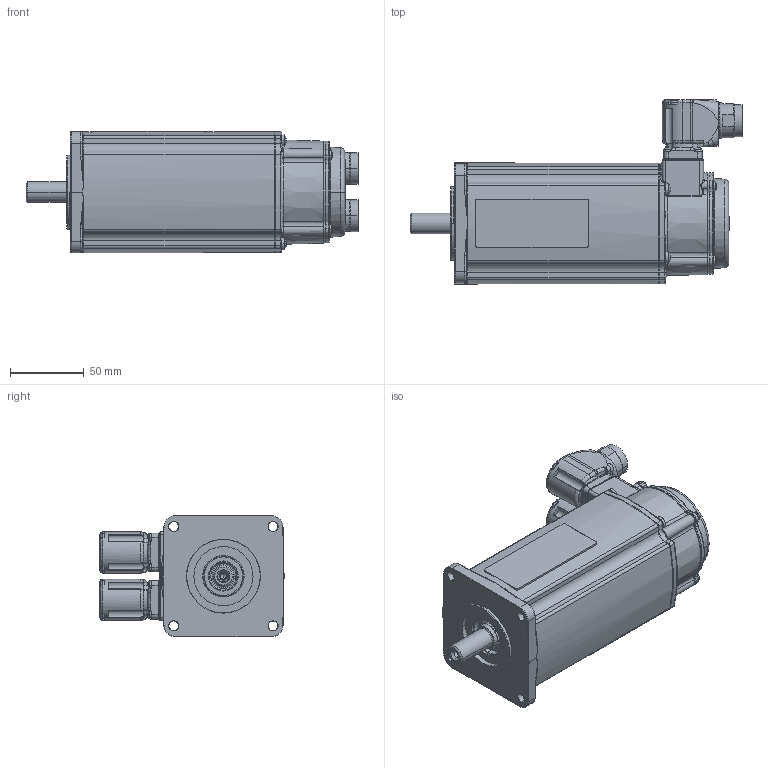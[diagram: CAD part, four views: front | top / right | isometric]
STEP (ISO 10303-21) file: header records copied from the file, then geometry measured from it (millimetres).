
FILE_DESCRIPTION((''),'2;1');
FILE_NAME('MSK040B-XXXX-NN-X1-UG1-NNNN_ASM','2008-11-24T',('wolfsaue'),('Rexroth_Indramat_GmbH'),'PRO/ENGINEER BY PARAMETRIC TECHNOLOGY CORPORATION, 2005110','PRO/ENGINEER BY PARAMETRIC TECHNOLOGY CORPORATION, 2005110','');
FILE_SCHEMA(('CONFIG_CONTROL_DESIGN'));
Length unit declared in the file: millimetre
Products named in the file (13): SKELETT-MSK040B; DB159772-GEHAEUSE-B1; DB160263-WELLE; DB162652-LAGERSCHILD; DB_35491-SCHRAUBE; DB163487-STECKER; DB_35256-SCHRAUBE; DB164715-STECKER; DB162217-DECKEL; DB_35255-SCHRAUBE; LAGERSCHILD-BG_ASM; DB_34669-DICHTRING; MSK040B-XXXX-NN-X1-UG1-NNNN_ASM
Assembly tree (25 placements, depth 3):
  MSK040B-XXXX-NN-X1-UG1-NNNN_ASM
    SKELETT-MSK040B
    DB159772-GEHAEUSE-B1
    DB160263-WELLE
    LAGERSCHILD-BG_ASM
      DB162652-LAGERSCHILD
      DB_35491-SCHRAUBE  x4
      DB163487-STECKER
      DB_35256-SCHRAUBE  x8
      DB164715-STECKER
      DB162217-DECKEL
      DB_35255-SCHRAUBE  x4
    DB_34669-DICHTRING
Bounding box: 224.5 x 124.5 x 82.2 mm (x, y, z)
Volume: 403738.3 mm3; surface area: 166175.8 mm2
Topology: 25 solids, 25 shells, 2449 faces, 5982 edges, 3677 vertices
Faces by surface type: cylinder 764, plane 759, torus 380, bspline 256, cone 218, sphere 72
Entity records: 72333 total; most frequent: CARTESIAN_POINT 25873, DIRECTION 10114, ORIENTED_EDGE 9568, EDGE_CURVE 4784, AXIS2_PLACEMENT_3D 4150, VERTEX_POINT 2897, CIRCLE 2354, EDGE_LOOP 2145
